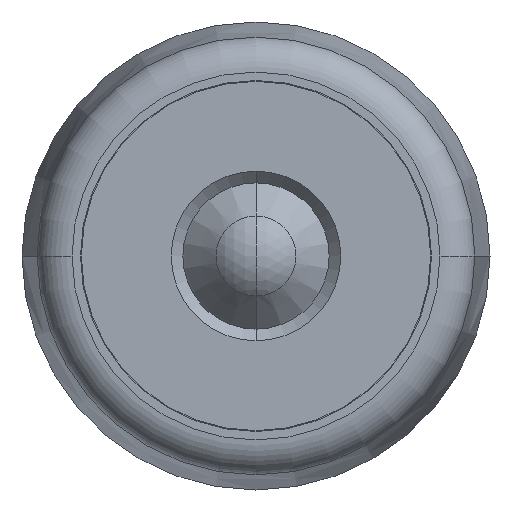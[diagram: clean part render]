
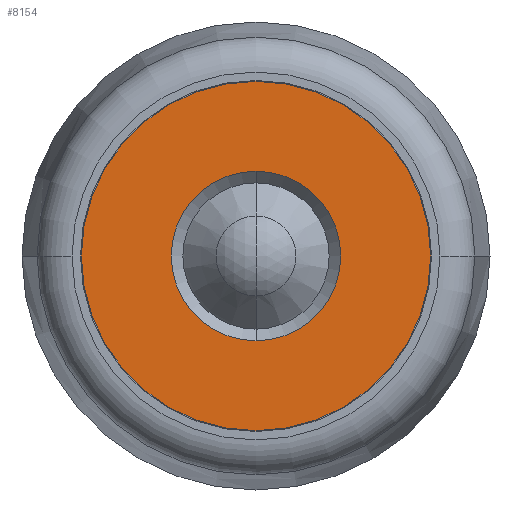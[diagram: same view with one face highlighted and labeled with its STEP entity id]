
A CAD part, front view. The second image highlights one B-rep face of the part: STEP entity #8154.
In plain terms, the highlighted planar face has unit normal (0, -1, 0).
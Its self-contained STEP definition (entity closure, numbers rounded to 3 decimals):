
#30 = EDGE_CURVE ( 'NONE', #8064, #5821, #4186, .T. ) ;
#132 = EDGE_LOOP ( 'NONE', ( #9362, #908 ) ) ;
#691 = AXIS2_PLACEMENT_3D ( 'NONE', #4421, #6032, #6948 ) ;
#867 = DIRECTION ( 'NONE',  ( 0., 0., 1. ) ) ;
#908 = ORIENTED_EDGE ( 'NONE', *, *, #8958, .T. ) ;
#997 = CIRCLE ( 'NONE', #3050, 3. ) ;
#1105 = VERTEX_POINT ( 'NONE', #2851 ) ;
#1144 = CIRCLE ( 'NONE', #3122, 1.45 ) ;
#2193 = ORIENTED_EDGE ( 'NONE', *, *, #9937, .F. ) ;
#2490 = DIRECTION ( 'NONE',  ( 0., 1., 0. ) ) ;
#2851 = CARTESIAN_POINT ( 'NONE',  ( 0., 0.2, 1.45 ) ) ;
#3050 = AXIS2_PLACEMENT_3D ( 'NONE', #9380, #5945, #867 ) ;
#3122 = AXIS2_PLACEMENT_3D ( 'NONE', #9883, #3855, #4808 ) ;
#3129 = CARTESIAN_POINT ( 'NONE',  ( 0., 0.2, -1.45 ) ) ;
#3855 = DIRECTION ( 'NONE',  ( 0., 1., 0. ) ) ;
#3897 = CARTESIAN_POINT ( 'NONE',  ( 0., 0.2, 3. ) ) ;
#4186 = CIRCLE ( 'NONE', #691, 3. ) ;
#4206 = PLANE ( 'NONE',  #5196 ) ;
#4421 = CARTESIAN_POINT ( 'NONE',  ( 0., 0.2, 0. ) ) ;
#4808 = DIRECTION ( 'NONE',  ( 0., 0., 1. ) ) ;
#5196 = AXIS2_PLACEMENT_3D ( 'NONE', #7696, #2490, #9393 ) ;
#5214 = EDGE_CURVE ( 'NONE', #9891, #1105, #8397, .T. ) ;
#5229 = ORIENTED_EDGE ( 'NONE', *, *, #30, .F. ) ;
#5821 = VERTEX_POINT ( 'NONE', #9332 ) ;
#5945 = DIRECTION ( 'NONE',  ( 0., 1., 0. ) ) ;
#6032 = DIRECTION ( 'NONE',  ( 0., 1., 0. ) ) ;
#6128 = CARTESIAN_POINT ( 'NONE',  ( 0., 0.2, 0. ) ) ;
#6948 = DIRECTION ( 'NONE',  ( 0., 0., 1. ) ) ;
#7696 = CARTESIAN_POINT ( 'NONE',  ( -3.068, 0.2, -10. ) ) ;
#7714 = DIRECTION ( 'NONE',  ( 0., 1., 0. ) ) ;
#8064 = VERTEX_POINT ( 'NONE', #3897 ) ;
#8154 = ADVANCED_FACE ( 'NONE', ( #9811, #8875 ), #4206, .F. ) ;
#8397 = CIRCLE ( 'NONE', #8939, 1.45 ) ;
#8566 = DIRECTION ( 'NONE',  ( 0., 0., 1. ) ) ;
#8875 = FACE_OUTER_BOUND ( 'NONE', #9706, .T. ) ;
#8939 = AXIS2_PLACEMENT_3D ( 'NONE', #6128, #7714, #8566 ) ;
#8958 = EDGE_CURVE ( 'NONE', #1105, #9891, #1144, .T. ) ;
#9332 = CARTESIAN_POINT ( 'NONE',  ( 0., 0.2, -3. ) ) ;
#9362 = ORIENTED_EDGE ( 'NONE', *, *, #5214, .T. ) ;
#9380 = CARTESIAN_POINT ( 'NONE',  ( 0., 0.2, 0. ) ) ;
#9393 = DIRECTION ( 'NONE',  ( 0., 0., 1. ) ) ;
#9706 = EDGE_LOOP ( 'NONE', ( #5229, #2193 ) ) ;
#9811 = FACE_BOUND ( 'NONE', #132, .T. ) ;
#9883 = CARTESIAN_POINT ( 'NONE',  ( 0., 0.2, 0. ) ) ;
#9891 = VERTEX_POINT ( 'NONE', #3129 ) ;
#9937 = EDGE_CURVE ( 'NONE', #5821, #8064, #997, .T. ) ;
